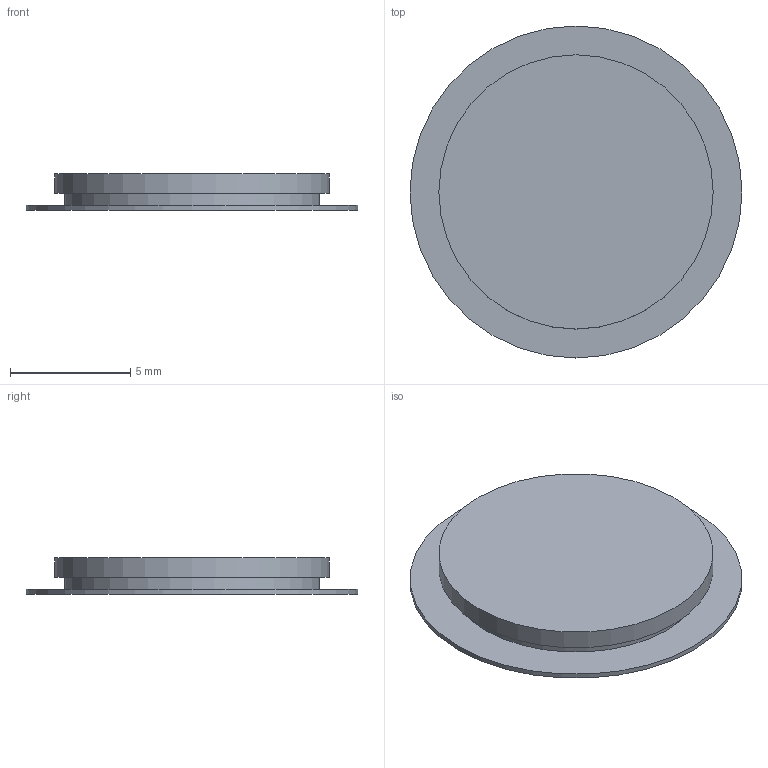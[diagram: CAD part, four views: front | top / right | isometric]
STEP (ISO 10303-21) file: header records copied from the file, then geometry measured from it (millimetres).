
FILE_DESCRIPTION(('FreeCAD Model'),'2;1');
FILE_NAME('Open CASCADE Shape Model','2026-09-21T09:51:54',('FreeCAD'),( 'FreeCAD'),'Open CASCADE STEP processor 7.8','FreeCAD','Unknown');
FILE_SCHEMA(('AUTOMOTIVE_DESIGN { 1 0 10303 214 1 1 1 1 }'));
Length unit declared in the file: millimetre
Products named in the file (1): Open CASCADE STEP translator 7.8 4
Bounding box: 13.8 x 13.8 x 1.5 mm (x, y, z)
Volume: 133.9 mm3; surface area: 396 mm2
Topology: 1 solids, 1 shells, 11 faces, 15 edges, 10 vertices
Faces by surface type: plane 6, cylinder 5
Full cylindrical faces by diameter (mm): 2.4 x1, 6.4 x1, 10.6 x1, 11.4 x1, 13.8 x1
Entity records: 248 total; most frequent: DIRECTION 48, CARTESIAN_POINT 38, ORIENTED_EDGE 30, AXIS2_PLACEMENT_3D 22, FACE_BOUND 15, EDGE_LOOP 15, EDGE_CURVE 15, ADVANCED_FACE 11
